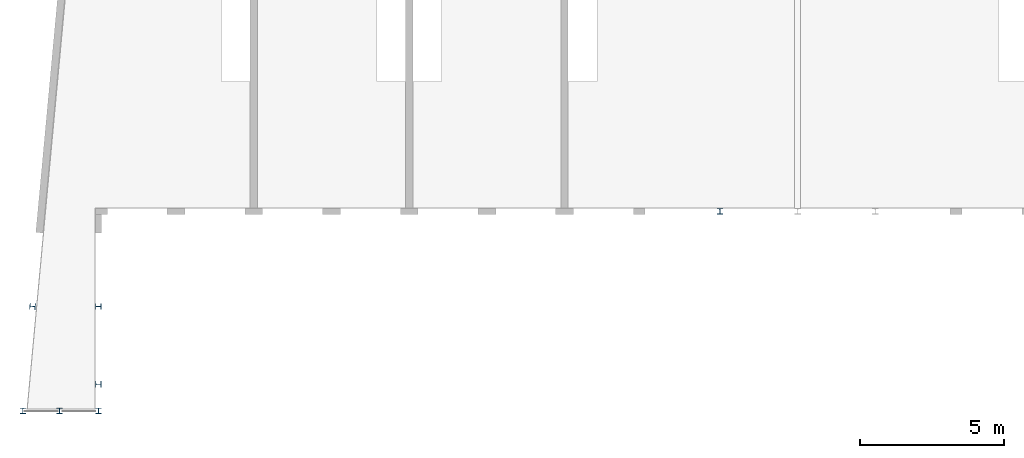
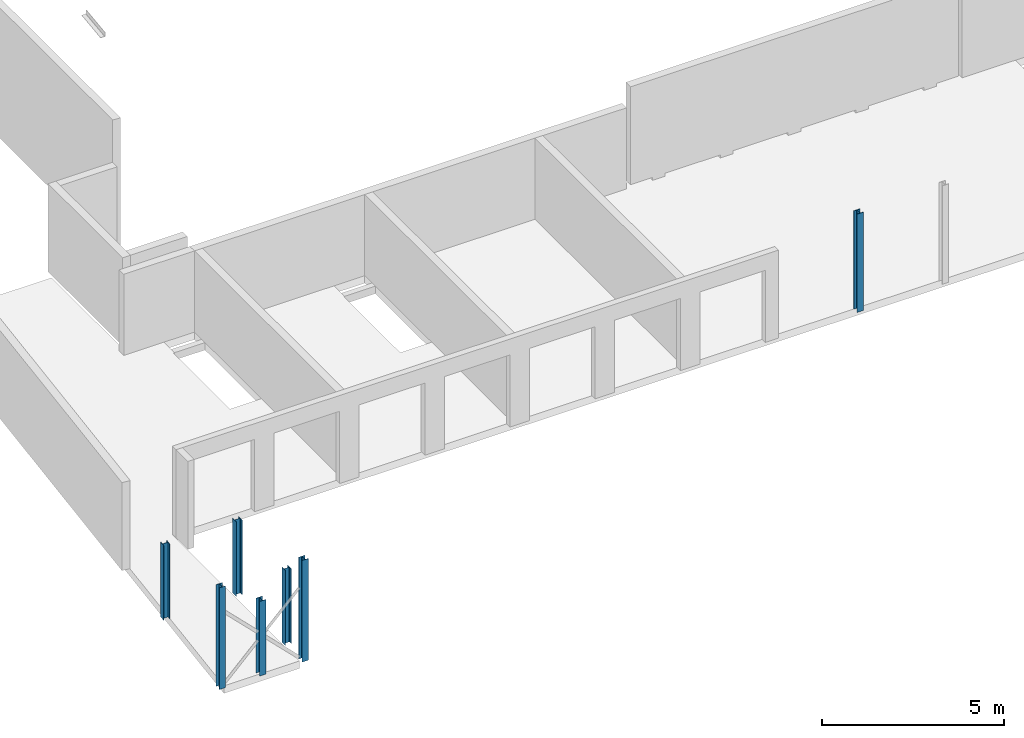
# One storey, part 1 of 22: 7 columns.
"""IFC2X3 building model written with IfcOpenShell, lengths in millimetres."""

from ifc_helpers import new_model, entity, si_unit, converted_unit, derived_unit, direction, frame, frame_2d, origin, place, context, subcontext, project, spatial, polyline, circle_curve, parameter, trimmed, segment, composite_curve, outline, extrude, source, transform, mapped, material, type_object, type_shapes, element, save


model = new_model("IFC2X3")

# Units and contexts
model_context = context("Model", 3, precision=0.01, world=origin(), true_north=direction((6.12303176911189e-17, 1.0)))
body_context = subcontext(model_context, "Body", "Model", "MODEL_VIEW")
ifc_project = project(units=[si_unit("LENGTHUNIT", "METRE", prefix="MILLI"), si_unit("AREAUNIT", "SQUARE_METRE"), si_unit("VOLUMEUNIT", "CUBIC_METRE"), converted_unit("PLANEANGLEUNIT", "DEGREE", entity("IfcRatioMeasure", 0.0174532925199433), si_unit("PLANEANGLEUNIT", "RADIAN"), dimensions=[0, 0, 0, 0, 0, 0, 0]), si_unit("MASSUNIT", "GRAM", prefix="KILO"), derived_unit("MASSDENSITYUNIT", [(si_unit("MASSUNIT", "GRAM", prefix="KILO"), 1), (si_unit("LENGTHUNIT", "METRE"), -3)]), si_unit("TIMEUNIT", "SECOND"), si_unit("FREQUENCYUNIT", "HERTZ"), si_unit("THERMODYNAMICTEMPERATUREUNIT", "DEGREE_CELSIUS"), derived_unit("THERMALTRANSMITTANCEUNIT", [(si_unit("MASSUNIT", "GRAM", prefix="KILO"), 1), (si_unit("THERMODYNAMICTEMPERATUREUNIT", "KELVIN"), -1), (si_unit("TIMEUNIT", "SECOND"), -3)]), derived_unit("VOLUMETRICFLOWRATEUNIT", [(si_unit("LENGTHUNIT", "METRE"), 3), (si_unit("TIMEUNIT", "SECOND"), -1)]), si_unit("ELECTRICCURRENTUNIT", "AMPERE"), si_unit("ELECTRICVOLTAGEUNIT", "VOLT"), si_unit("POWERUNIT", "WATT"), si_unit("FORCEUNIT", "NEWTON", prefix="KILO"), si_unit("ILLUMINANCEUNIT", "LUX"), si_unit("LUMINOUSFLUXUNIT", "LUMEN"), si_unit("LUMINOUSINTENSITYUNIT", "CANDELA"), derived_unit("USERDEFINED", [(si_unit("MASSUNIT", "GRAM", prefix="KILO"), -1), (si_unit("LENGTHUNIT", "METRE"), -2), (si_unit("TIMEUNIT", "SECOND"), 3), (si_unit("LUMINOUSFLUXUNIT", "LUMEN"), 1)]), derived_unit("LINEARVELOCITYUNIT", [(si_unit("LENGTHUNIT", "METRE"), 1), (si_unit("TIMEUNIT", "SECOND"), -1)]), si_unit("PRESSUREUNIT", "PASCAL"), derived_unit("USERDEFINED", [(si_unit("LENGTHUNIT", "METRE"), -2), (si_unit("MASSUNIT", "GRAM", prefix="KILO"), 1), (si_unit("TIMEUNIT", "SECOND"), -2)])], contexts=[model_context])

# Site, building, storey
site_placement = place(None, origin())
site = spatial("IfcSite", under=ifc_project, at=site_placement, Name="Default", CompositionType="ELEMENT")
building_placement = place(site_placement, origin())
building = spatial("IfcBuilding", under=site, at=building_placement, Name="niet gebruiken", CompositionType="ELEMENT")
storey_placement = place(building_placement, frame((0.0, 0.0, 9630.0)))
storey = spatial("IfcBuildingStorey", under=building, at=storey_placement, Name="03 derde verdieping", CompositionType="ELEMENT", Elevation=9630.00000000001)

# Columns
ifc_material = material(Name="NLRS_h2_staal")
column_type_1 = type_object("IfcColumnType", Name="kolom HEA 200", PredefinedType="COLUMN", material=ifc_material)
shared_shape_1 = source(origin(), body_context, "Body", "SweptSolid", [
    extrude(outline(composite_curve([segment(polyline([(85.0, -100.0), (95.0, -100.0)]), True, "CONTINUOUS"), segment(polyline([(95.0, -100.0), (95.0, 100.0)]), True, "CONTINUOUS"), segment(polyline([(95.0, 100.0), (85.0, 100.0)]), True, "CONTINUOUS"), segment(polyline([(85.0, 100.0), (85.0, 21.2499999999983)]), True, "CONTINUOUS"), segment(trimmed(circle_curve(frame_2d((67.0, 21.2499999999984), x_axis=(1.0, 0.0)), 18.0), [parameter(270.0)], [parameter(0.0)], True, "PARAMETER"), False, "CONTINUOUS"), segment(polyline([(67.0, 3.24999999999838), (-67.0, 3.24999999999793)]), True, "CONTINUOUS"), segment(trimmed(circle_curve(frame_2d((-67.0, 21.2499999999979), x_axis=(0.0, -1.0)), 18.0), [parameter(270.0)], [parameter(0.0)], True, "PARAMETER"), False, "CONTINUOUS"), segment(polyline([(-85.0, 21.2499999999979), (-85.0, 100.0)]), True, "CONTINUOUS"), segment(polyline([(-85.0, 100.0), (-95.0, 100.0)]), True, "CONTINUOUS"), segment(polyline([(-95.0, 100.0), (-95.0, -100.0)]), True, "CONTINUOUS"), segment(polyline([(-95.0, -100.0), (-85.0, -100.0)]), True, "CONTINUOUS"), segment(polyline([(-85.0, -100.0), (-85.0, -21.250000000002)]), True, "CONTINUOUS"), segment(trimmed(circle_curve(frame_2d((-67.0, -21.2500000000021), x_axis=(-1.0, 0.0)), 18.0), [parameter(270.0)], [parameter(0.0)], True, "PARAMETER"), False, "CONTINUOUS"), segment(polyline([(-67.0, -3.25000000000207), (67.0, -3.25000000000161)]), True, "CONTINUOUS"), segment(trimmed(circle_curve(frame_2d((67.0, -21.2500000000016), x_axis=(0.0, 1.0)), 18.0), [parameter(270.0)], [parameter(0.0)], True, "PARAMETER"), False, "CONTINUOUS"), segment(polyline([(85.0, -21.2500000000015), (85.0, -100.0)]), True, "CONTINUOUS")], self_intersect=False)), frame((0.0, 0.0, 9585.0), z_axis=(0.0, 0.0, 1.0), x_axis=(0.0, -1.0, 0.0)), (0.0, 0.0, 1.0), 3405.0),
])
type_shapes(column_type_1, [shared_shape_1])
for number, where, z_axis, x_axis, name in (
    (1, (75.2116728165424, -6630.0, -9630.0), (0.0, 0.0, 1.0), (-1.0, 0.0, 0.0), "NLRS_28.11_SCO_TLB_stalen kolom HEA_gen:kolom HEA 200"),
    (2, (2700.0, -6630.0, -9630.0), (0.0, 0.0, 1.0), (-1.0, 0.0, 0.0), "NLRS_28.11_SCO_TLB_stalen kolom HEA_gen:kolom HEA 200"),
):
    element("IfcColumn", number, at=place(storey_placement, frame(where, z_axis=z_axis, x_axis=x_axis)), inside=storey, type_object=column_type_1, material=ifc_material, Name=name, ObjectType="kolom HEA 200", context=body_context, shape_type="MappedRepresentation", body=[
        mapped(shared_shape_1, transform((0.0, 0.0, 0.0), scale=1.0)),
    ])
column_type_2 = type_object("IfcColumnType", Name="kolom HEA 200", PredefinedType="COLUMN", material=ifc_material)
shared_shape_2 = source(origin(), body_context, "Body", "SweptSolid", [
    extrude(outline(composite_curve([segment(polyline([(85.0, -100.0), (95.0, -100.0)]), True, "CONTINUOUS"), segment(polyline([(95.0, -100.0), (95.0, 100.0)]), True, "CONTINUOUS"), segment(polyline([(95.0, 100.0), (85.0, 100.0)]), True, "CONTINUOUS"), segment(polyline([(85.0, 100.0), (85.0, 21.2499999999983)]), True, "CONTINUOUS"), segment(trimmed(circle_curve(frame_2d((67.0, 21.2499999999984), x_axis=(1.0, 0.0)), 18.0), [parameter(270.0)], [parameter(0.0)], True, "PARAMETER"), False, "CONTINUOUS"), segment(polyline([(67.0, 3.24999999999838), (-67.0, 3.24999999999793)]), True, "CONTINUOUS"), segment(trimmed(circle_curve(frame_2d((-67.0, 21.2499999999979), x_axis=(0.0, -1.0)), 18.0), [parameter(270.0)], [parameter(0.0)], True, "PARAMETER"), False, "CONTINUOUS"), segment(polyline([(-85.0, 21.2499999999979), (-85.0, 100.0)]), True, "CONTINUOUS"), segment(polyline([(-85.0, 100.0), (-95.0, 100.0)]), True, "CONTINUOUS"), segment(polyline([(-95.0, 100.0), (-95.0, -100.0)]), True, "CONTINUOUS"), segment(polyline([(-95.0, -100.0), (-85.0, -100.0)]), True, "CONTINUOUS"), segment(polyline([(-85.0, -100.0), (-85.0, -21.250000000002)]), True, "CONTINUOUS"), segment(trimmed(circle_curve(frame_2d((-67.0, -21.2500000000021), x_axis=(-1.0, 0.0)), 18.0), [parameter(270.0)], [parameter(0.0)], True, "PARAMETER"), False, "CONTINUOUS"), segment(polyline([(-67.0, -3.25000000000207), (67.0, -3.25000000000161)]), True, "CONTINUOUS"), segment(trimmed(circle_curve(frame_2d((67.0, -21.2500000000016), x_axis=(0.0, 1.0)), 18.0), [parameter(270.0)], [parameter(0.0)], True, "PARAMETER"), False, "CONTINUOUS"), segment(polyline([(85.0, -21.2500000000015), (85.0, -100.0)]), True, "CONTINUOUS")], self_intersect=False)), frame((0.0, 0.0, 9585.0), z_axis=(0.0, 0.0, 1.0), x_axis=(0.0, -1.0, 0.0)), (0.0, 0.0, 1.0), 2505.0),
])
type_shapes(column_type_2, [shared_shape_2])
for number, where, z_axis, x_axis, name in (
    (3, (2700.0, -3002.05001415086, -9630.0), (0.0, 0.0, 1.0), (0.0, 1.0, 0.0), "NLRS_28.11_SCO_TLB_stalen kolom HEA_gen:kolom HEA 200"),
    (4, (411.676103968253, -3000.17455730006, -9630.0), (0.0, 0.0, 1.0), (0.0922987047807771, 0.995731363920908, 0.0), "NLRS_28.11_SCO_TLB_stalen kolom HEA_gen:kolom HEA 200"),
    (5, (1350.0, -6630.0, -9630.0), (0.0, 0.0, 1.0), (-1.0, 0.0, 0.0), "NLRS_28.11_SCO_TLB_stalen kolom HEA_gen:kolom HEA 200"),
    (6, (2700.0, -5702.04999999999, -9630.0), (0.0, 0.0, 1.0), (0.0, 1.0, 0.0), "NLRS_28.11_SCO_TLB_stalen kolom HEA_gen:kolom HEA 200"),
):
    element("IfcColumn", number, at=place(storey_placement, frame(where, z_axis=z_axis, x_axis=x_axis)), inside=storey, type_object=column_type_2, material=ifc_material, Name=name, ObjectType="kolom HEA 200", context=body_context, shape_type="MappedRepresentation", body=[
        mapped(shared_shape_2, transform((0.0, 0.0, 0.0), scale=1.0)),
    ])
column_type_3 = type_object("IfcColumnType", Name="kolom HEA 200", PredefinedType="COLUMN", material=ifc_material)
shared_shape_3 = source(origin(), body_context, "Body", "SweptSolid", [
    extrude(outline(composite_curve([segment(polyline([(85.0, -100.0), (95.0, -100.0)]), True, "CONTINUOUS"), segment(polyline([(95.0, -100.0), (95.0, 100.0)]), True, "CONTINUOUS"), segment(polyline([(95.0, 100.0), (85.0, 100.0)]), True, "CONTINUOUS"), segment(polyline([(85.0, 100.0), (85.0, 21.2499999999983)]), True, "CONTINUOUS"), segment(trimmed(circle_curve(frame_2d((67.0, 21.2499999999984), x_axis=(1.0, 0.0)), 18.0), [parameter(270.0)], [parameter(0.0)], True, "PARAMETER"), False, "CONTINUOUS"), segment(polyline([(67.0, 3.24999999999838), (-67.0, 3.24999999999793)]), True, "CONTINUOUS"), segment(trimmed(circle_curve(frame_2d((-67.0, 21.2499999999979), x_axis=(0.0, -1.0)), 18.0), [parameter(270.0)], [parameter(0.0)], True, "PARAMETER"), False, "CONTINUOUS"), segment(polyline([(-85.0, 21.2499999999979), (-85.0, 100.0)]), True, "CONTINUOUS"), segment(polyline([(-85.0, 100.0), (-95.0, 100.0)]), True, "CONTINUOUS"), segment(polyline([(-95.0, 100.0), (-95.0, -100.0)]), True, "CONTINUOUS"), segment(polyline([(-95.0, -100.0), (-85.0, -100.0)]), True, "CONTINUOUS"), segment(polyline([(-85.0, -100.0), (-85.0, -21.250000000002)]), True, "CONTINUOUS"), segment(trimmed(circle_curve(frame_2d((-67.0, -21.2500000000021), x_axis=(-1.0, 0.0)), 18.0), [parameter(270.0)], [parameter(0.0)], True, "PARAMETER"), False, "CONTINUOUS"), segment(polyline([(-67.0, -3.25000000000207), (67.0, -3.25000000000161)]), True, "CONTINUOUS"), segment(trimmed(circle_curve(frame_2d((67.0, -21.2500000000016), x_axis=(0.0, 1.0)), 18.0), [parameter(270.0)], [parameter(0.0)], True, "PARAMETER"), False, "CONTINUOUS"), segment(polyline([(85.0, -21.2500000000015), (85.0, -100.0)]), True, "CONTINUOUS")], self_intersect=False)), frame((0.0, 0.0, 9540.0), z_axis=(0.0, 0.0, 1.0), x_axis=(0.0, -1.0, 0.0)), (0.0, 0.0, 1.0), 3300.0),
])
type_shapes(column_type_3, [shared_shape_3])
column_placement = place(storey_placement, frame((24300.0, 300.0, -9630.0)))
element("IfcColumn", 7, at=column_placement, inside=storey, type_object=column_type_3, material=ifc_material, Name="NLRS_28.11_SCO_TLB_stalen kolom HEA_gen:kolom HEA 200", ObjectType="kolom HEA 200", context=body_context, shape_type="MappedRepresentation", body=[
    mapped(shared_shape_3, transform((0.0, 0.0, 0.0), scale=1.0)),
])

save(model, "model.ifc")
